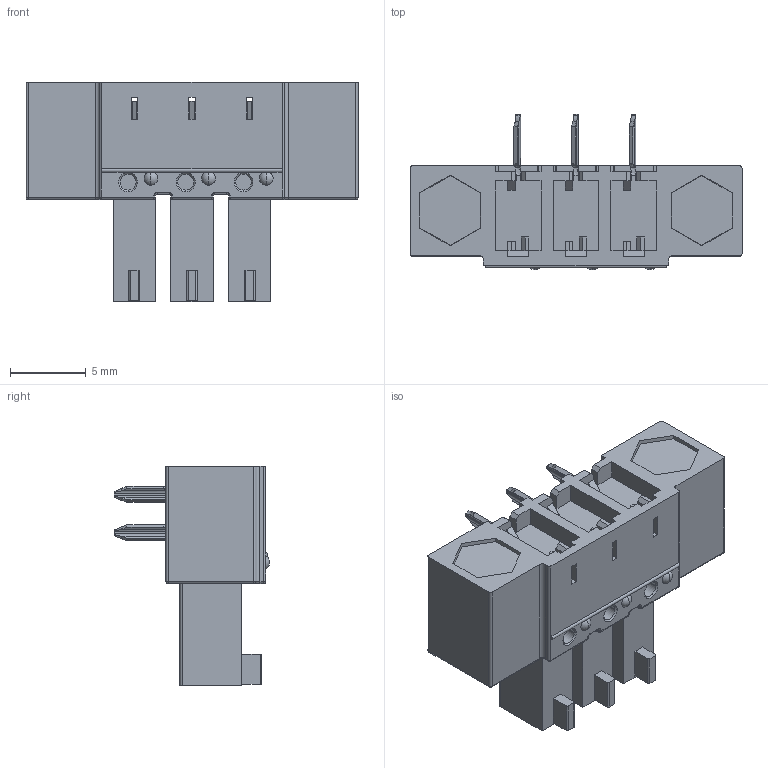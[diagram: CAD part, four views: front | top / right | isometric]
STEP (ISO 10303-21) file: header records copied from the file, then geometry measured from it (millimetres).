
FILE_DESCRIPTION((''),'2;1');
FILE_NAME('333','2019-04-18T',('zhenbing.lai'),(''),'CREO PARAMETRIC BY PTC INC, 2016260','CREO PARAMETRIC BY PTC INC, 2016260','');
FILE_SCHEMA(('CONFIG_CONTROL_DESIGN'));
Length unit declared in the file: millimetre
Products named in the file (1): 333
Bounding box: 21.92 x 10.25 x 14.5 mm (x, y, z)
Volume: 1177 mm3; surface area: 1275.2 mm2
Topology: 1 solids, 1 shells, 554 faces, 1576 edges, 1025 vertices
Faces by surface type: plane 292, cylinder 114, bspline 74, torus 46, cone 16, sphere 12
Entity records: 20434 total; most frequent: CARTESIAN_POINT 6715, ORIENTED_EDGE 3128, DIRECTION 2472, EDGE_CURVE 1564, VERTEX_POINT 1025, VECTOR 912, LINE 912, AXIS2_PLACEMENT_3D 780
